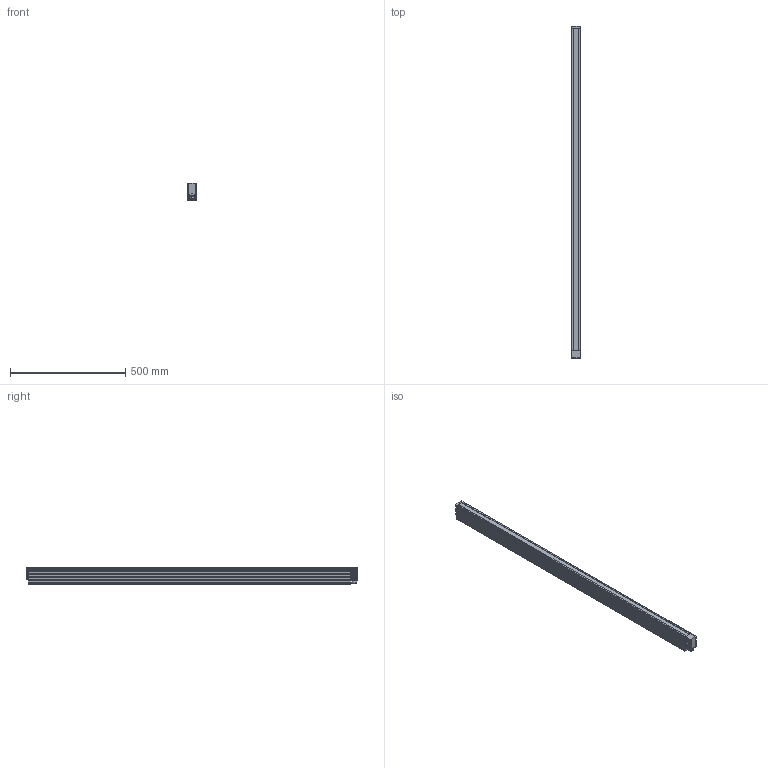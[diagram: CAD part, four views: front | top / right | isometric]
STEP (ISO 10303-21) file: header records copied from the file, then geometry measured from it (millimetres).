
FILE_DESCRIPTION (( 'STEP AP203' ), '1' );
FILE_NAME ('VLN (L_D)-1400W _ Drawing _ L1267A (L12782A_L1298A)-A00101.STEP', '2024-06-24T07:29:10', ( '' ), ( '' ), 'SwSTEP 2.0', 'SolidWorks 2020', '' );
FILE_SCHEMA (( 'CONFIG_CONTROL_DESIGN' ));
Length unit declared in the file: millimetre
Products named in the file (8): VLN-100W _ TMVLN0100D303A _ VLN 側蓋 _ L1254A-M00301 _ STEP 用; Nanaboshi NAW-202-RF 板裝連接器 + 防水墊; M2 X 35 柱頭 內六角 螺絲; M3 X 6 扁頭 螺絲; M2 X 12 柱頭 內六角 螺絲; VLN (L_D)-1400W _ Drawing _ L1267A (L12782A_L1298A)-A00101; TMVLN0100D301A _ VLN 0100 主體 _ STEP  用; VLN-100W _ TMVLN0100D304A _ VLN ｳsｱｵｾｹｺﾝｰｼｻ\ _ L1254A-M00401_ STEP･ﾎ
Assembly tree (24 placements, depth 2):
  VLN (L_D)-1400W _ Drawing _ L1267A (L12782A_L1298A)-A00101
    TMVLN0100D301A _ VLN 0100 主體 _ STEP  用
    VLN-100W _ TMVLN0100D303A _ VLN 側蓋 _ L1254A-M00301 _ STEP 用
    VLN-100W _ TMVLN0100D304A _ VLN ｳsｱｵｾｹｺﾝｰｼｻ\ _ L1254A-M00401_ STEP･ﾎ
    M2 X 12 柱頭 內六角 螺絲  x8
    M2 X 35 柱頭 內六角 螺絲  x8
    M3 X 6 扁頭 螺絲  x4
    Nanaboshi NAW-202-RF 板裝連接器 + 防水墊
Bounding box: 40 x 1442 x 75 mm (x, y, z)
Volume: 3261852.5 mm3; surface area: 774083.3 mm2
Topology: 24 solids, 24 shells, 1158 faces, 2741 edges, 1722 vertices
Faces by surface type: plane 594, cylinder 372, torus 119, cone 48, bspline 21, sphere 4
Entity records: 26874 total; most frequent: CARTESIAN_POINT 6179, ORIENTED_EDGE 4050, DIRECTION 3981, EDGE_CURVE 2025, LINE 1375, VECTOR 1375, AXIS2_PLACEMENT_3D 1303, VERTEX_POINT 1280
